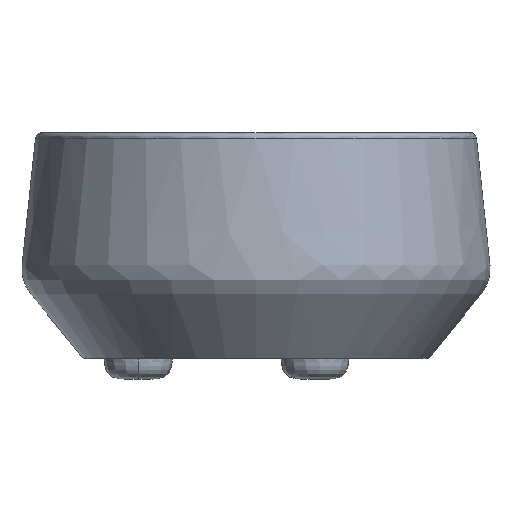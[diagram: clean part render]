
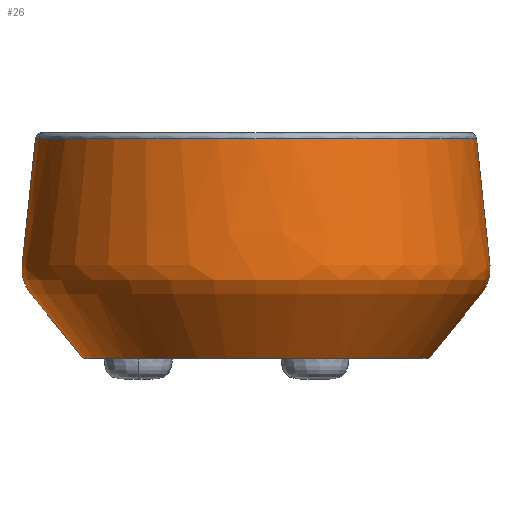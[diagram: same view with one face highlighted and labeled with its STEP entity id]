
A CAD part, left-side view. The second image highlights one B-rep face of the part: STEP entity #26.
In plain terms, the highlighted free-form (B-spline) face has degree [2, 2] with [5, 9] control points.
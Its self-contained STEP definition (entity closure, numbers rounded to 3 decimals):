
#26=ADVANCED_FACE('',(#47),#328,.T.);
#47=FACE_OUTER_BOUND('',#68,.T.);
#68=EDGE_LOOP('',(#116,#117,#118,#119));
#116=ORIENTED_EDGE('',*,*,#208,.T.);
#117=ORIENTED_EDGE('',*,*,#187,.F.);
#118=ORIENTED_EDGE('',*,*,#189,.F.);
#119=ORIENTED_EDGE('',*,*,#210,.F.);
#187=EDGE_CURVE('',#305,#312,#240,.T.);
#189=EDGE_CURVE('',#300,#305,#220,.T.);
#208=EDGE_CURVE('',#311,#312,#224,.T.);
#210=EDGE_CURVE('',#311,#300,#255,.T.);
#220=(
BOUNDED_CURVE()
B_SPLINE_CURVE(2,(#1088,#1089,#1090,#1091,#1092,#1093,#1094),
 .UNSPECIFIED.,.F.,.F.)
B_SPLINE_CURVE_WITH_KNOTS((3,2,2,3),(27.815,243.254,
298.496,439.464),.UNSPECIFIED.)
CURVE()
GEOMETRIC_REPRESENTATION_ITEM()
RATIONAL_B_SPLINE_CURVE((1.,1.,1.,0.923,1.,1.,1.))
REPRESENTATION_ITEM('')
);
#224=(
BOUNDED_CURVE()
B_SPLINE_CURVE(2,(#1158,#1159,#1160,#1161,#1162,#1163,#1164),
 .UNSPECIFIED.,.F.,.F.)
B_SPLINE_CURVE_WITH_KNOTS((3,2,2,3),(27.815,243.254,
298.496,439.464),.UNSPECIFIED.)
CURVE()
GEOMETRIC_REPRESENTATION_ITEM()
RATIONAL_B_SPLINE_CURVE((1.,1.,1.,0.923,1.,1.,1.))
REPRESENTATION_ITEM('')
);
#240=TRIMMED_CURVE($,#268,(#1083),(#1084),.T.,.CARTESIAN.);
#255=TRIMMED_CURVE($,#283,(#1169),(#1170),.T.,.CARTESIAN.);
#268=CIRCLE('',#439,295.289);
#283=CIRCLE('',#454,376.835);
#300=VERTEX_POINT('',#997);
#305=VERTEX_POINT('',#1002);
#311=VERTEX_POINT('',#1008);
#312=VERTEX_POINT('',#1009);
#328=(
BOUNDED_SURFACE()
B_SPLINE_SURFACE(2,2,((#727,#728,#729,#730,#731,#732,#733,#734,#735),(#736,
#737,#738,#739,#740,#741,#742,#743,#744),(#745,#746,#747,#748,#749,#750,
#751,#752,#753),(#754,#755,#756,#757,#758,#759,#760,#761,#762),(#763,#764,
#765,#766,#767,#768,#769,#770,#771)),.UNSPECIFIED.,.F.,.F.,.F.)
B_SPLINE_SURFACE_WITH_KNOTS((3,2,3),(3,2,2,2,3),(0.,628.096,1256.191),
(17.023,27.815,243.254,298.496,440.415),
 .UNSPECIFIED.)
GEOMETRIC_REPRESENTATION_ITEM()
RATIONAL_B_SPLINE_SURFACE(((1.,1.,1.,1.,1.,0.923,1.,1.,1.),
(0.707,0.707,0.707,0.707,
0.707,0.653,0.707,0.707,
0.707),(1.,1.,1.,1.,1.,0.923,1.,1.,1.),(0.707,
0.707,0.707,0.707,0.707,
0.653,0.707,0.707,0.707),
(1.,1.,1.,1.,1.,0.923,1.,1.,1.)))
REPRESENTATION_ITEM('')
SURFACE()
);
#439=AXIS2_PLACEMENT_3D($,#1082,#484,#485);
#454=AXIS2_PLACEMENT_3D($,#1168,#514,#515);
#484=DIRECTION('',(0.,0.,-1.));
#485=DIRECTION('',(0.,-1.,0.));
#514=DIRECTION('',(0.,0.,1.));
#515=DIRECTION('',(0.,1.,0.));
#727=CARTESIAN_POINT('',(492.994,950.403,414.697));
#728=CARTESIAN_POINT('',(492.994,949.833,409.331));
#729=CARTESIAN_POINT('',(492.994,949.262,403.965));
#730=CARTESIAN_POINT('',(492.994,937.876,296.849));
#731=CARTESIAN_POINT('',(492.994,926.49,189.733));
#732=CARTESIAN_POINT('',(492.994,923.408,160.747));
#733=CARTESIAN_POINT('',(492.994,941.811,138.141));
#734=CARTESIAN_POINT('',(492.994,986.61,83.11));
#735=CARTESIAN_POINT('',(492.994,1031.408,28.08));
#736=CARTESIAN_POINT('',(117.3,950.403,414.697));
#737=CARTESIAN_POINT('',(116.73,949.833,409.331));
#738=CARTESIAN_POINT('',(116.159,949.262,403.965));
#739=CARTESIAN_POINT('',(104.773,937.876,296.849));
#740=CARTESIAN_POINT('',(93.386,926.49,189.733));
#741=CARTESIAN_POINT('',(90.305,923.408,160.747));
#742=CARTESIAN_POINT('',(108.708,941.811,138.141));
#743=CARTESIAN_POINT('',(153.507,986.61,83.11));
#744=CARTESIAN_POINT('',(198.305,1031.408,28.08));
#745=CARTESIAN_POINT('',(117.3,1326.097,414.697));
#746=CARTESIAN_POINT('',(116.73,1326.097,409.331));
#747=CARTESIAN_POINT('',(116.159,1326.097,403.965));
#748=CARTESIAN_POINT('',(104.773,1326.097,296.849));
#749=CARTESIAN_POINT('',(93.386,1326.097,189.733));
#750=CARTESIAN_POINT('',(90.305,1326.097,160.747));
#751=CARTESIAN_POINT('',(108.708,1326.097,138.141));
#752=CARTESIAN_POINT('',(153.507,1326.097,83.11));
#753=CARTESIAN_POINT('',(198.305,1326.097,28.08));
#754=CARTESIAN_POINT('',(117.3,1701.792,414.697));
#755=CARTESIAN_POINT('',(116.73,1702.362,409.331));
#756=CARTESIAN_POINT('',(116.159,1702.933,403.965));
#757=CARTESIAN_POINT('',(104.773,1714.319,296.849));
#758=CARTESIAN_POINT('',(93.386,1725.705,189.733));
#759=CARTESIAN_POINT('',(90.305,1728.786,160.747));
#760=CARTESIAN_POINT('',(108.708,1710.384,138.141));
#761=CARTESIAN_POINT('',(153.507,1665.585,83.11));
#762=CARTESIAN_POINT('',(198.305,1620.786,28.08));
#763=CARTESIAN_POINT('',(492.994,1701.792,414.697));
#764=CARTESIAN_POINT('',(492.994,1702.362,409.331));
#765=CARTESIAN_POINT('',(492.994,1702.933,403.965));
#766=CARTESIAN_POINT('',(492.994,1714.319,296.849));
#767=CARTESIAN_POINT('',(492.994,1725.705,189.733));
#768=CARTESIAN_POINT('',(492.994,1728.786,160.747));
#769=CARTESIAN_POINT('',(492.994,1710.384,138.141));
#770=CARTESIAN_POINT('',(492.994,1665.585,83.11));
#771=CARTESIAN_POINT('',(492.994,1620.786,28.08));
#997=CARTESIAN_POINT('',(492.994,949.262,403.965));
#1002=CARTESIAN_POINT('',(492.994,1030.808,28.817));
#1008=CARTESIAN_POINT('',(492.994,1702.933,403.965));
#1009=CARTESIAN_POINT('',(492.994,1621.387,28.817));
#1082=CARTESIAN_POINT('',(492.994,1326.097,28.817));
#1083=CARTESIAN_POINT('',(492.994,1030.808,28.817));
#1084=CARTESIAN_POINT('',(492.994,1621.387,28.817));
#1088=CARTESIAN_POINT('',(492.994,949.262,403.965));
#1089=CARTESIAN_POINT('',(492.994,937.876,296.849));
#1090=CARTESIAN_POINT('',(492.994,926.49,189.733));
#1091=CARTESIAN_POINT('',(492.994,923.408,160.747));
#1092=CARTESIAN_POINT('',(492.994,941.811,138.141));
#1093=CARTESIAN_POINT('',(492.994,986.31,83.479));
#1094=CARTESIAN_POINT('',(492.994,1030.808,28.817));
#1158=CARTESIAN_POINT('',(492.994,1702.933,403.965));
#1159=CARTESIAN_POINT('',(492.994,1714.319,296.849));
#1160=CARTESIAN_POINT('',(492.994,1725.705,189.733));
#1161=CARTESIAN_POINT('',(492.994,1728.786,160.747));
#1162=CARTESIAN_POINT('',(492.994,1710.384,138.141));
#1163=CARTESIAN_POINT('',(492.994,1665.885,83.479));
#1164=CARTESIAN_POINT('',(492.994,1621.387,28.817));
#1168=CARTESIAN_POINT('',(492.994,1326.097,403.965));
#1169=CARTESIAN_POINT('',(492.994,1702.933,403.965));
#1170=CARTESIAN_POINT('',(492.994,949.262,403.965));
